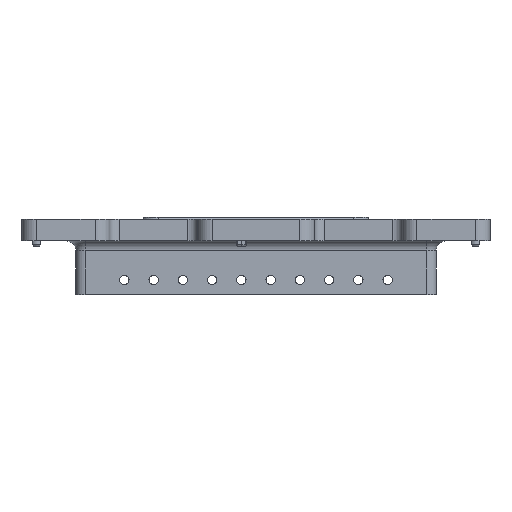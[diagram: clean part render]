
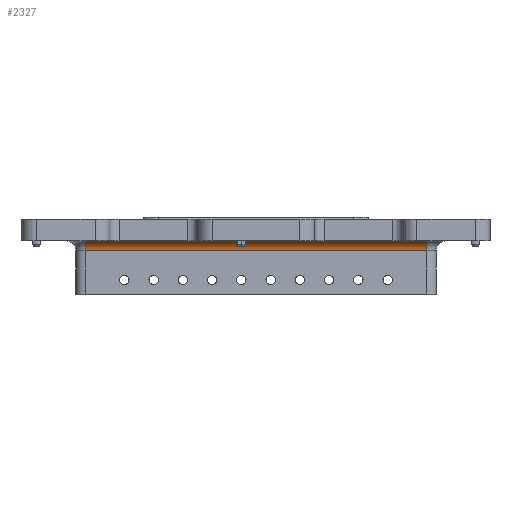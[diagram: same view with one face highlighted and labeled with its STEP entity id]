
A CAD part, left-side view. The second image highlights one B-rep face of the part: STEP entity #2327.
In plain terms, the highlighted cylindrical face has radius 10 mm (diameter 20 mm), a partial arc.
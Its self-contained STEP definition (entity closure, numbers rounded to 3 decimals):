
#2327=ADVANCED_FACE('EdgeFillet.14',(#5359),#5360,.F.);
#5359=FACE_OUTER_BOUND('',#9516,.T.);
#5360=CYLINDRICAL_SURFACE('',#9517,10.0);
#9516=EDGE_LOOP('',(#16383,#16384,#16385,#16386));
#9517=AXIS2_PLACEMENT_3D('',#16387,#16388,#16389);
#16383=ORIENTED_EDGE('',*,*,#25929,.F.);
#16384=ORIENTED_EDGE('',*,*,#25930,.T.);
#16385=ORIENTED_EDGE('',*,*,#25925,.T.);
#16386=ORIENTED_EDGE('',*,*,#25601,.F.);
#16387=CARTESIAN_POINT('',(-270.0,0.0,-10.0));
#16388=DIRECTION('',(0.0,1.0,0.0));
#16389=DIRECTION('',(0.0,0.0,1.0));
#25601=EDGE_CURVE('',#31160,#31147,#31162,.F.);
#25925=EDGE_CURVE('',#31611,#31147,#31612,.F.);
#25929=EDGE_CURVE('',#31617,#31160,#31618,.F.);
#25930=EDGE_CURVE('',#31617,#31611,#31619,.F.);
#31147=VERTEX_POINT('',#38229);
#31160=VERTEX_POINT('',#38245);
#31162=LINE('',#38247,#38248);
#31611=VERTEX_POINT('',#38814);
#31612=CIRCLE('',#38815,10.0);
#31617=VERTEX_POINT('',#38820);
#31618=CIRCLE('',#38821,10.0);
#31619=LINE('',#38822,#38823);
#38229=CARTESIAN_POINT('',(-270.0,-175.0,0.0));
#38245=CARTESIAN_POINT('',(-270.0,175.,0.0));
#38247=CARTESIAN_POINT('',(-270.0,0.0,0.0));
#38248=VECTOR('',#45580,1.0);
#38814=CARTESIAN_POINT('',(-260.0,-175.0,-10.0));
#38815=AXIS2_PLACEMENT_3D('',#46088,#46089,#46090);
#38820=CARTESIAN_POINT('',(-260.0,175.0,-10.0));
#38821=AXIS2_PLACEMENT_3D('',#46097,#46098,#46099);
#38822=CARTESIAN_POINT('',(-260.0,0.0,-10.0));
#38823=VECTOR('',#46100,1.0);
#45580=DIRECTION('',(0.0,1.0,0.0));
#46088=CARTESIAN_POINT('',(-270.0,-175.0,-10.0));
#46089=DIRECTION('',(0.0,1.0,0.0));
#46090=DIRECTION('',(0.0,0.0,1.0));
#46097=CARTESIAN_POINT('',(-270.0,175.,-10.0));
#46098=DIRECTION('',(0.,1.0,0.0));
#46099=DIRECTION('',(-1.0,0.,-0.0));
#46100=DIRECTION('',(0.0,1.0,0.0));
